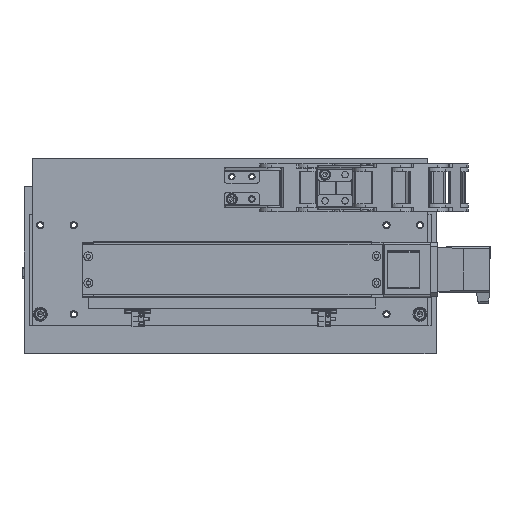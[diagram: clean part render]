
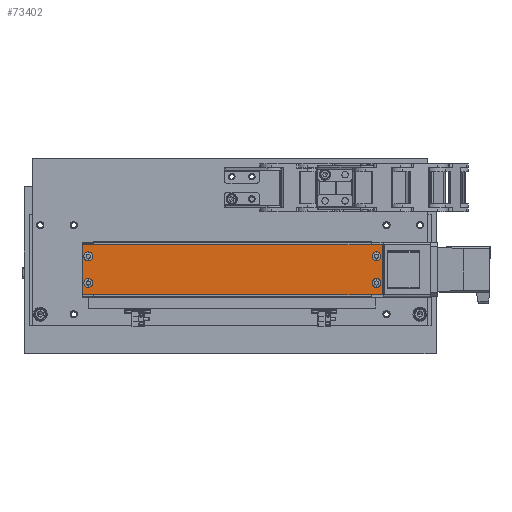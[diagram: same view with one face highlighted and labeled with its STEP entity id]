
A CAD part, top view. The second image highlights one B-rep face of the part: STEP entity #73402.
In plain terms, the highlighted planar face has unit normal (0, 0, 1) as drawn and (0, 1, 0) by its records, which use the part's own axes.
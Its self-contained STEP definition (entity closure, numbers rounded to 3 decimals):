
#714 = FACE_BOUND ( 'NONE', #50916, .T. ) ;
#1107 = EDGE_LOOP ( 'NONE', ( #101623, #43138, #36662, #29401 ) ) ;
#2407 = EDGE_LOOP ( 'NONE', ( #52587, #17918 ) ) ;
#2982 = EDGE_CURVE ( 'NONE', #105742, #103503, #18430, .T. ) ;
#3084 = DIRECTION ( 'NONE',  ( 0., -1., 0. ) ) ;
#3711 = EDGE_CURVE ( 'NONE', #97429, #70624, #92758, .T. ) ;
#4515 = CIRCLE ( 'NONE', #77109, 4. ) ;
#5634 = PLANE ( 'NONE',  #10231 ) ;
#6678 = CIRCLE ( 'NONE', #76296, 4. ) ;
#7487 = CARTESIAN_POINT ( 'NONE',  ( 312.5, 31., 22.5 ) ) ;
#7826 = DIRECTION ( 'NONE',  ( 0., 0., -1. ) ) ;
#8347 = CARTESIAN_POINT ( 'NONE',  ( 312.5, 31., 22.5 ) ) ;
#10231 = AXIS2_PLACEMENT_3D ( 'NONE', #8347, #90222, #57905 ) ;
#10387 = CARTESIAN_POINT ( 'NONE',  ( 307.5, 31., -12. ) ) ;
#10656 = VERTEX_POINT ( 'NONE', #90541 ) ;
#11106 = FACE_BOUND ( 'NONE', #26725, .T. ) ;
#11239 = DIRECTION ( 'NONE',  ( 0., 0., -1. ) ) ;
#11909 = CARTESIAN_POINT ( 'NONE',  ( 312.5, 31., 22.5 ) ) ;
#12796 = AXIS2_PLACEMENT_3D ( 'NONE', #64605, #48778, #56366 ) ;
#16529 = CARTESIAN_POINT ( 'NONE',  ( 307.5, 31., -8. ) ) ;
#17609 = CIRCLE ( 'NONE', #41603, 4. ) ;
#17918 = ORIENTED_EDGE ( 'NONE', *, *, #2982, .T. ) ;
#18430 = CIRCLE ( 'NONE', #94562, 4. ) ;
#20327 = EDGE_LOOP ( 'NONE', ( #38336, #70840 ) ) ;
#22526 = EDGE_CURVE ( 'NONE', #55264, #47455, #4515, .T. ) ;
#22667 = FACE_BOUND ( 'NONE', #20327, .T. ) ;
#22867 = VERTEX_POINT ( 'NONE', #91948 ) ;
#23564 = ORIENTED_EDGE ( 'NONE', *, *, #42538, .T. ) ;
#25168 = LINE ( 'NONE', #76026, #97062 ) ;
#26550 = DIRECTION ( 'NONE',  ( 0., 0., -1. ) ) ;
#26725 = EDGE_LOOP ( 'NONE', ( #64760, #64269 ) ) ;
#27202 = CARTESIAN_POINT ( 'NONE',  ( 48.5, 31., 12. ) ) ;
#28832 = DIRECTION ( 'NONE',  ( 0., -1., 0. ) ) ;
#29371 = VECTOR ( 'NONE', #62564, 1000. ) ;
#29401 = ORIENTED_EDGE ( 'NONE', *, *, #97685, .F. ) ;
#30603 = CARTESIAN_POINT ( 'NONE',  ( 48.5, 31., -12. ) ) ;
#31623 = VERTEX_POINT ( 'NONE', #16529 ) ;
#31963 = EDGE_CURVE ( 'NONE', #47455, #55264, #58068, .T. ) ;
#32000 = DIRECTION ( 'NONE',  ( 0., 0., -1. ) ) ;
#34638 = EDGE_CURVE ( 'NONE', #97429, #90523, #47394, .T. ) ;
#34767 = CARTESIAN_POINT ( 'NONE',  ( 307.5, 31., 8. ) ) ;
#35055 = DIRECTION ( 'NONE',  ( 0., 0., -1. ) ) ;
#36070 = CIRCLE ( 'NONE', #54390, 4. ) ;
#36662 = ORIENTED_EDGE ( 'NONE', *, *, #34638, .T. ) ;
#37965 = EDGE_CURVE ( 'NONE', #31623, #22867, #49171, .T. ) ;
#38336 = ORIENTED_EDGE ( 'NONE', *, *, #22526, .T. ) ;
#40278 = CARTESIAN_POINT ( 'NONE',  ( 48.5, 31., -12. ) ) ;
#40515 = DIRECTION ( 'NONE',  ( 0., 0., 1. ) ) ;
#41603 = AXIS2_PLACEMENT_3D ( 'NONE', #40278, #48157, #72965 ) ;
#42405 = EDGE_CURVE ( 'NONE', #70624, #10656, #73050, .T. ) ;
#42538 = EDGE_CURVE ( 'NONE', #101653, #103621, #70324, .T. ) ;
#43138 = ORIENTED_EDGE ( 'NONE', *, *, #3711, .F. ) ;
#44276 = DIRECTION ( 'NONE',  ( 0., 0., -1. ) ) ;
#47394 = LINE ( 'NONE', #80963, #48735 ) ;
#47455 = VERTEX_POINT ( 'NONE', #80739 ) ;
#48157 = DIRECTION ( 'NONE',  ( 0., -1., 0. ) ) ;
#48378 = DIRECTION ( 'NONE',  ( 0., -1., 0. ) ) ;
#48735 = VECTOR ( 'NONE', #89219, 1000. ) ;
#48778 = DIRECTION ( 'NONE',  ( 0., -1., 0. ) ) ;
#49093 = CARTESIAN_POINT ( 'NONE',  ( 48.5, 31., 8. ) ) ;
#49171 = CIRCLE ( 'NONE', #12796, 4. ) ;
#49837 = EDGE_CURVE ( 'NONE', #22867, #31623, #6678, .T. ) ;
#50916 = EDGE_LOOP ( 'NONE', ( #23564, #62722 ) ) ;
#51600 = VECTOR ( 'NONE', #40515, 1000. ) ;
#52477 = DIRECTION ( 'NONE',  ( 0., -1., 0. ) ) ;
#52587 = ORIENTED_EDGE ( 'NONE', *, *, #74625, .T. ) ;
#54390 = AXIS2_PLACEMENT_3D ( 'NONE', #27202, #3084, #35055 ) ;
#54695 = EDGE_CURVE ( 'NONE', #103621, #101653, #17609, .T. ) ;
#55264 = VERTEX_POINT ( 'NONE', #34767 ) ;
#55390 = DIRECTION ( 'NONE',  ( 0., -1., 0. ) ) ;
#56366 = DIRECTION ( 'NONE',  ( 0., 0., -1. ) ) ;
#57905 = DIRECTION ( 'NONE',  ( 0., 0., 1. ) ) ;
#58068 = CIRCLE ( 'NONE', #70943, 4. ) ;
#58131 = CARTESIAN_POINT ( 'NONE',  ( 48.5, 31., -8. ) ) ;
#62564 = DIRECTION ( 'NONE',  ( -1., 0., 0. ) ) ;
#62722 = ORIENTED_EDGE ( 'NONE', *, *, #54695, .T. ) ;
#62786 = CARTESIAN_POINT ( 'NONE',  ( 312.5, 31., -22.5 ) ) ;
#64269 = ORIENTED_EDGE ( 'NONE', *, *, #37965, .T. ) ;
#64605 = CARTESIAN_POINT ( 'NONE',  ( 307.5, 31., -12. ) ) ;
#64760 = ORIENTED_EDGE ( 'NONE', *, *, #49837, .T. ) ;
#67562 = AXIS2_PLACEMENT_3D ( 'NONE', #30603, #55390, #32000 ) ;
#70324 = CIRCLE ( 'NONE', #67562, 4. ) ;
#70624 = VERTEX_POINT ( 'NONE', #11909 ) ;
#70840 = ORIENTED_EDGE ( 'NONE', *, *, #31963, .T. ) ;
#70943 = AXIS2_PLACEMENT_3D ( 'NONE', #80440, #48378, #7826 ) ;
#72965 = DIRECTION ( 'NONE',  ( 0., 0., -1. ) ) ;
#73050 = LINE ( 'NONE', #104129, #29371 ) ;
#73402 = ADVANCED_FACE ( 'NONE', ( #80461, #88142, #22667, #11106, #714 ), #5634, .T. ) ;
#74625 = EDGE_CURVE ( 'NONE', #103503, #105742, #36070, .T. ) ;
#75094 = CARTESIAN_POINT ( 'NONE',  ( 43.5, 31., -22.5 ) ) ;
#76026 = CARTESIAN_POINT ( 'NONE',  ( 43.5, 31., 22.5 ) ) ;
#76296 = AXIS2_PLACEMENT_3D ( 'NONE', #10387, #102559, #26550 ) ;
#77109 = AXIS2_PLACEMENT_3D ( 'NONE', #86273, #52477, #11239 ) ;
#80440 = CARTESIAN_POINT ( 'NONE',  ( 307.5, 31., 12. ) ) ;
#80461 = FACE_OUTER_BOUND ( 'NONE', #1107, .T. ) ;
#80739 = CARTESIAN_POINT ( 'NONE',  ( 307.5, 31., 16. ) ) ;
#80963 = CARTESIAN_POINT ( 'NONE',  ( 43.5, 31., -22.5 ) ) ;
#83590 = DIRECTION ( 'NONE',  ( 0., 0., -1. ) ) ;
#86273 = CARTESIAN_POINT ( 'NONE',  ( 307.5, 31., 12. ) ) ;
#86999 = CARTESIAN_POINT ( 'NONE',  ( 48.5, 31., 12. ) ) ;
#88142 = FACE_BOUND ( 'NONE', #2407, .T. ) ;
#89219 = DIRECTION ( 'NONE',  ( -1., 0., 0. ) ) ;
#90222 = DIRECTION ( 'NONE',  ( 0., 1., 0. ) ) ;
#90523 = VERTEX_POINT ( 'NONE', #75094 ) ;
#90541 = CARTESIAN_POINT ( 'NONE',  ( 43.5, 31., 22.5 ) ) ;
#91948 = CARTESIAN_POINT ( 'NONE',  ( 307.5, 31., -16. ) ) ;
#92758 = LINE ( 'NONE', #7487, #51600 ) ;
#94562 = AXIS2_PLACEMENT_3D ( 'NONE', #86999, #28832, #44276 ) ;
#97062 = VECTOR ( 'NONE', #83590, 1000. ) ;
#97429 = VERTEX_POINT ( 'NONE', #62786 ) ;
#97685 = EDGE_CURVE ( 'NONE', #10656, #90523, #25168, .T. ) ;
#100758 = CARTESIAN_POINT ( 'NONE',  ( 48.5, 31., -16. ) ) ;
#101505 = CARTESIAN_POINT ( 'NONE',  ( 48.5, 31., 16. ) ) ;
#101623 = ORIENTED_EDGE ( 'NONE', *, *, #42405, .F. ) ;
#101653 = VERTEX_POINT ( 'NONE', #100758 ) ;
#102559 = DIRECTION ( 'NONE',  ( 0., -1., 0. ) ) ;
#103503 = VERTEX_POINT ( 'NONE', #49093 ) ;
#103621 = VERTEX_POINT ( 'NONE', #58131 ) ;
#104129 = CARTESIAN_POINT ( 'NONE',  ( 43.5, 31., 22.5 ) ) ;
#105742 = VERTEX_POINT ( 'NONE', #101505 ) ;
